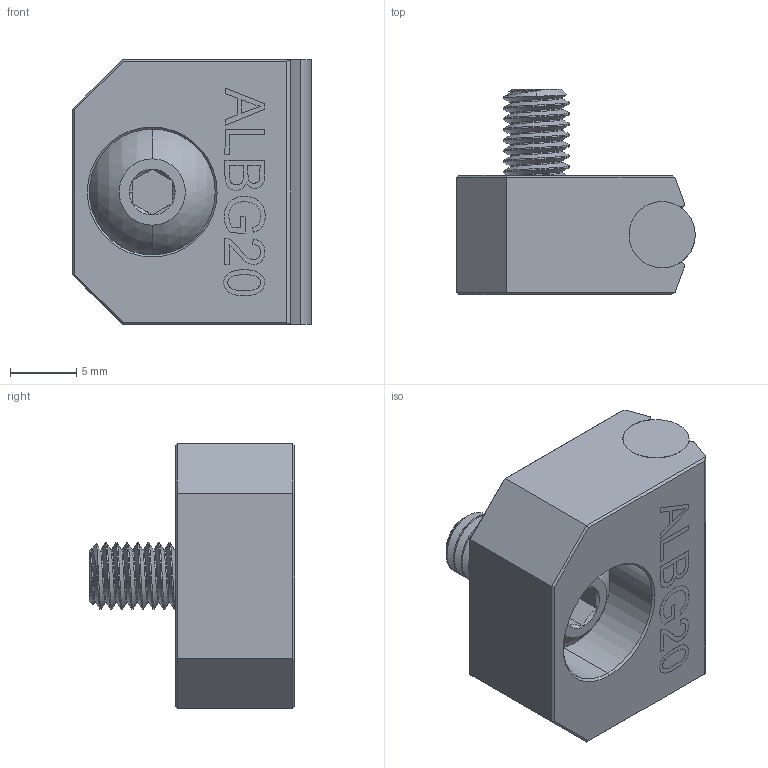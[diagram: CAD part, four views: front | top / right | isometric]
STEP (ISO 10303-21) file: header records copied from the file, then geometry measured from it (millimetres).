
FILE_DESCRIPTION (( 'STEP AP203' ), '1' );
FILE_NAME ('ALBG20_Bar_Guide.STEP', '2020-12-19T21:07:24', ( '' ), ( '' ), 'SwSTEP 2.0', 'SolidWorks 2020', '' );
FILE_SCHEMA (( 'CONFIG_CONTROL_DESIGN' ));
Length unit declared in the file: inch
Products named in the file (3): M5_8X1_ BUTTON-HEAD SOCKET CAP SCREW_91239A224; ALBG20_Bar_Guide; ALBG20_2020-03-31
Assembly tree (2 placements, depth 2):
  ALBG20_Bar_Guide
    ALBG20_2020-03-31
    M5_8X1_ BUTTON-HEAD SOCKET CAP SCREW_91239A224
Bounding box: 18 x 15.5 x 20 mm (x, y, z)
Volume: 2765.6 mm3; surface area: 1890.3 mm2
Topology: 2 solids, 2 shells, 174 faces, 440 edges, 283 vertices
Faces by surface type: plane 74, cylinder 63, bspline 19, cone 16, sphere 2
Entity records: 7656 total; most frequent: CARTESIAN_POINT 3567, ORIENTED_EDGE 880, DIRECTION 665, EDGE_CURVE 440, VERTEX_POINT 283, LINE 241, VECTOR 241, AXIS2_PLACEMENT_3D 212
